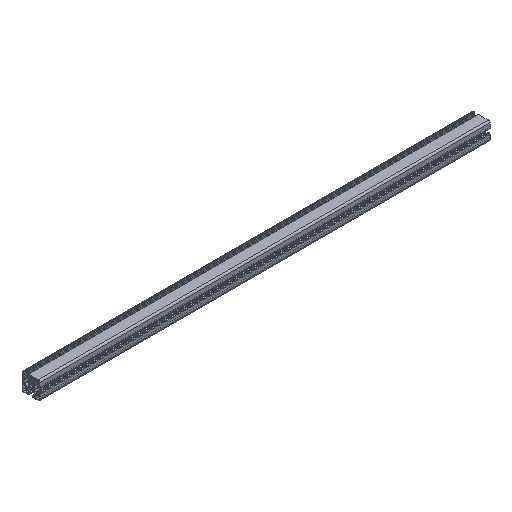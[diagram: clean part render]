
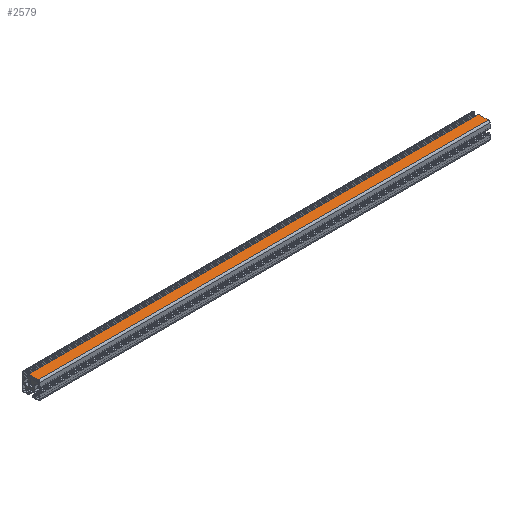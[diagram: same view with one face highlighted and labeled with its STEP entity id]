
A CAD part, isometric view. The second image highlights one B-rep face of the part: STEP entity #2579.
In plain terms, the highlighted planar face has unit normal (0, 0, 1).
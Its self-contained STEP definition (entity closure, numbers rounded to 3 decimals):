
#15 = CARTESIAN_POINT ( 'NONE',  ( 1000., 5.492, 19.97 ) ) ;
#110 = EDGE_CURVE ( 'NONE', #3107, #2449, #2205, .T. ) ;
#161 = EDGE_CURVE ( 'NONE', #4382, #3107, #3989, .T. ) ;
#173 = CARTESIAN_POINT ( 'NONE',  ( 1000., 5.492, 19.97 ) ) ;
#357 = CARTESIAN_POINT ( 'NONE',  ( 1000., -15.976, 19.97 ) ) ;
#362 = EDGE_CURVE ( 'NONE', #2963, #2449, #961, .T. ) ;
#418 = FACE_OUTER_BOUND ( 'NONE', #4194, .T. ) ;
#498 = LINE ( 'NONE', #15, #3037 ) ;
#557 = ORIENTED_EDGE ( 'NONE', *, *, #362, .T. ) ;
#686 = VECTOR ( 'NONE', #1985, 1000. ) ;
#818 = PLANE ( 'NONE',  #853 ) ;
#853 = AXIS2_PLACEMENT_3D ( 'NONE', #173, #3172, #2939 ) ;
#961 = LINE ( 'NONE', #1323, #1692 ) ;
#1199 = ORIENTED_EDGE ( 'NONE', *, *, #1231, .T. ) ;
#1231 = EDGE_CURVE ( 'NONE', #4382, #2963, #498, .T. ) ;
#1239 = CARTESIAN_POINT ( 'NONE',  ( 1000., 5.492, 19.97 ) ) ;
#1323 = CARTESIAN_POINT ( 'NONE',  ( 0., 5.492, 19.97 ) ) ;
#1692 = VECTOR ( 'NONE', #2876, 1000. ) ;
#1985 = DIRECTION ( 'NONE',  ( -1., 0., 0. ) ) ;
#2113 = CARTESIAN_POINT ( 'NONE',  ( 0., 5.492, 19.97 ) ) ;
#2205 = LINE ( 'NONE', #4162, #686 ) ;
#2449 = VERTEX_POINT ( 'NONE', #3513 ) ;
#2579 = ADVANCED_FACE ( 'NONE', ( #418 ), #818, .F. ) ;
#2876 = DIRECTION ( 'NONE',  ( 0., -1., 0. ) ) ;
#2939 = DIRECTION ( 'NONE',  ( -1., 0., 0. ) ) ;
#2963 = VERTEX_POINT ( 'NONE', #2113 ) ;
#3037 = VECTOR ( 'NONE', #3057, 1000. ) ;
#3057 = DIRECTION ( 'NONE',  ( -1., 0., 0. ) ) ;
#3107 = VERTEX_POINT ( 'NONE', #357 ) ;
#3172 = DIRECTION ( 'NONE',  ( 0., 0., -1. ) ) ;
#3476 = ORIENTED_EDGE ( 'NONE', *, *, #161, .F. ) ;
#3513 = CARTESIAN_POINT ( 'NONE',  ( 0., -15.976, 19.97 ) ) ;
#3936 = VECTOR ( 'NONE', #4127, 1000. ) ;
#3979 = CARTESIAN_POINT ( 'NONE',  ( 1000., 5.492, 19.97 ) ) ;
#3989 = LINE ( 'NONE', #3979, #3936 ) ;
#4127 = DIRECTION ( 'NONE',  ( 0., -1., 0. ) ) ;
#4162 = CARTESIAN_POINT ( 'NONE',  ( 1000., -15.976, 19.97 ) ) ;
#4163 = ORIENTED_EDGE ( 'NONE', *, *, #110, .F. ) ;
#4194 = EDGE_LOOP ( 'NONE', ( #557, #4163, #3476, #1199 ) ) ;
#4382 = VERTEX_POINT ( 'NONE', #1239 ) ;
